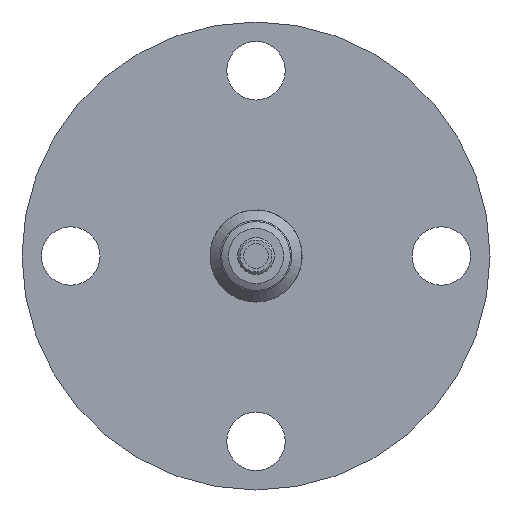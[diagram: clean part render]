
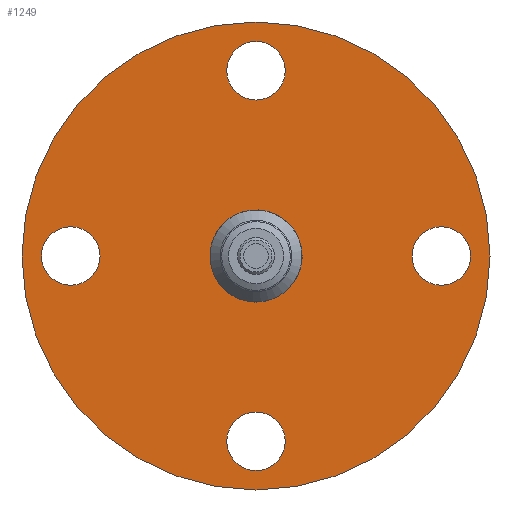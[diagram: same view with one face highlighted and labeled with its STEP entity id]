
A CAD part, front view. The second image highlights one B-rep face of the part: STEP entity #1249.
In plain terms, the highlighted planar face has unit normal (0, -1, 0).
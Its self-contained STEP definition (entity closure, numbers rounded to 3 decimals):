
#98=PLANE('',#1365);
#296=ORIENTED_EDGE('',*,*,#407,.T.);
#297=ORIENTED_EDGE('',*,*,#406,.T.);
#298=ORIENTED_EDGE('',*,*,#405,.T.);
#299=ORIENTED_EDGE('',*,*,#404,.T.);
#300=ORIENTED_EDGE('',*,*,#403,.T.);
#301=ORIENTED_EDGE('',*,*,#396,.F.);
#396=EDGE_CURVE('',#469,#469,#536,.T.);
#403=EDGE_CURVE('',#476,#476,#543,.T.);
#404=EDGE_CURVE('',#477,#477,#544,.T.);
#405=EDGE_CURVE('',#478,#478,#545,.T.);
#406=EDGE_CURVE('',#479,#479,#546,.T.);
#407=EDGE_CURVE('',#480,#480,#547,.T.);
#469=VERTEX_POINT('',#2123);
#476=VERTEX_POINT('',#2139);
#477=VERTEX_POINT('',#2142);
#478=VERTEX_POINT('',#2145);
#479=VERTEX_POINT('',#2148);
#480=VERTEX_POINT('',#2151);
#536=CIRCLE('',#1347,15.);
#543=CIRCLE('',#1356,76.2);
#544=CIRCLE('',#1358,9.525);
#545=CIRCLE('',#1360,9.525);
#546=CIRCLE('',#1362,9.525);
#547=CIRCLE('',#1364,9.525);
#637=EDGE_LOOP('',(#296));
#638=EDGE_LOOP('',(#297));
#639=EDGE_LOOP('',(#298));
#640=EDGE_LOOP('',(#299));
#641=EDGE_LOOP('',(#300));
#642=EDGE_LOOP('',(#301));
#735=FACE_BOUND('',#637,.T.);
#736=FACE_BOUND('',#638,.T.);
#737=FACE_BOUND('',#639,.T.);
#738=FACE_BOUND('',#640,.T.);
#739=FACE_BOUND('',#641,.T.);
#740=FACE_BOUND('',#642,.T.);
#1249=ADVANCED_FACE('',(#735,#736,#737,#738,#739,#740),#98,.T.);
#1347=AXIS2_PLACEMENT_3D('',#2122,#1559,#1560);
#1356=AXIS2_PLACEMENT_3D('',#2138,#1577,#1578);
#1358=AXIS2_PLACEMENT_3D('',#2141,#1581,#1582);
#1360=AXIS2_PLACEMENT_3D('',#2144,#1585,#1586);
#1362=AXIS2_PLACEMENT_3D('',#2147,#1589,#1590);
#1364=AXIS2_PLACEMENT_3D('',#2150,#1593,#1594);
#1365=AXIS2_PLACEMENT_3D('',#2152,#1595,#1596);
#1559=DIRECTION('',(0.,-1.,0.));
#1560=DIRECTION('',(0.,0.,-1.));
#1577=DIRECTION('',(0.,-1.,0.));
#1578=DIRECTION('',(0.,0.,-1.));
#1581=DIRECTION('',(0.,1.,0.));
#1582=DIRECTION('',(0.,0.,-1.));
#1585=DIRECTION('',(0.,1.,0.));
#1586=DIRECTION('',(-1.,0.,0.));
#1589=DIRECTION('',(0.,1.,0.));
#1590=DIRECTION('',(0.,0.,1.));
#1593=DIRECTION('',(0.,1.,0.));
#1594=DIRECTION('',(1.,0.,0.));
#1595=DIRECTION('',(0.,-1.,0.));
#1596=DIRECTION('',(0.,0.,-1.));
#2122=CARTESIAN_POINT('',(0.,-14.055,0.));
#2123=CARTESIAN_POINT('',(0.,-14.055,-15.));
#2138=CARTESIAN_POINT('',(0.,-14.055,0.));
#2139=CARTESIAN_POINT('',(0.,-14.055,-76.2));
#2141=CARTESIAN_POINT('',(0.,-14.055,60.325));
#2142=CARTESIAN_POINT('',(0.,-14.055,50.8));
#2144=CARTESIAN_POINT('',(60.325,-14.055,0.));
#2145=CARTESIAN_POINT('',(50.8,-14.055,0.));
#2147=CARTESIAN_POINT('',(0.,-14.055,-60.325));
#2148=CARTESIAN_POINT('',(0.,-14.055,-50.8));
#2150=CARTESIAN_POINT('',(-60.325,-14.055,0.));
#2151=CARTESIAN_POINT('',(-50.8,-14.055,0.));
#2152=CARTESIAN_POINT('',(15.,-14.055,0.));
